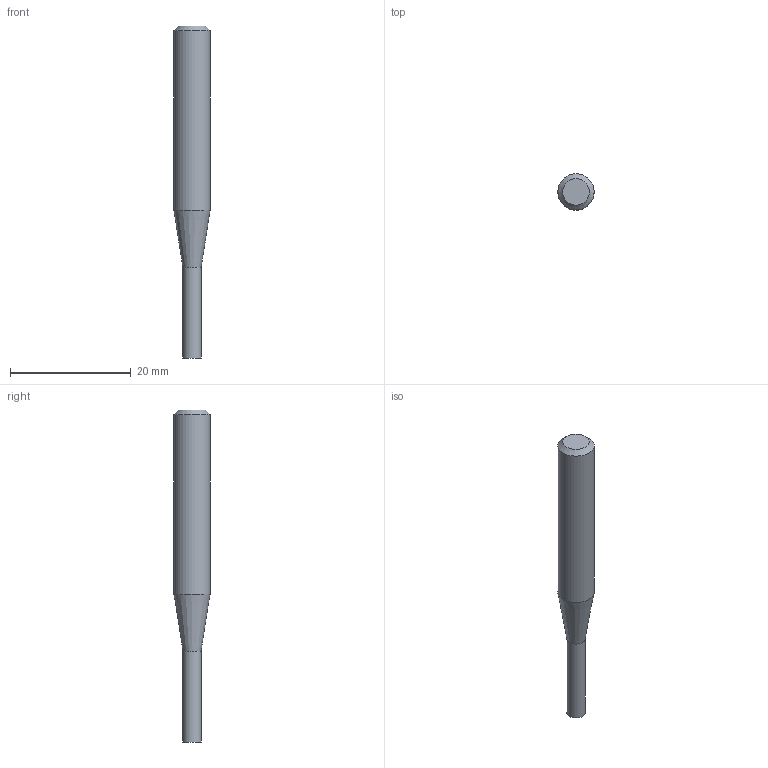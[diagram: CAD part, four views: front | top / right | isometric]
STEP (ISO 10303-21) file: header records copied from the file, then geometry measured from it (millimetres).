
FILE_DESCRIPTION((''),'2;1');
FILE_NAME('C:\Users\nsx150\AppData\Local\Temp\Mastercam 2021\W9Z147XDNF\TEMP.step','2021-04-08T14:50:17',(''),(''),'STEP Write','Mastercam 2021 ... CNC Software, Inc.','');
FILE_SCHEMA(('AUTOMOTIVE_DESIGN'));
Length unit declared in the file: millimetre
Products named in the file (1): None
Bounding box: 6 x 6 x 55 mm (x, y, z)
Volume: 1119.9 mm3; surface area: 892.2 mm2
Topology: 2 solids, 2 shells, 8 faces, 10 edges, 6 vertices
Faces by surface type: plane 4, cylinder 2, cone 2
Full cylindrical faces by diameter (mm): 3 x1, 6 x1
Entity records: 190 total; most frequent: DIRECTION 32, CARTESIAN_POINT 22, AXIS2_PLACEMENT_3D 16, ORIENTED_EDGE 12, EDGE_LOOP 12, STYLED_ITEM 11, ADVANCED_FACE 8, VERTEX_POINT 6
